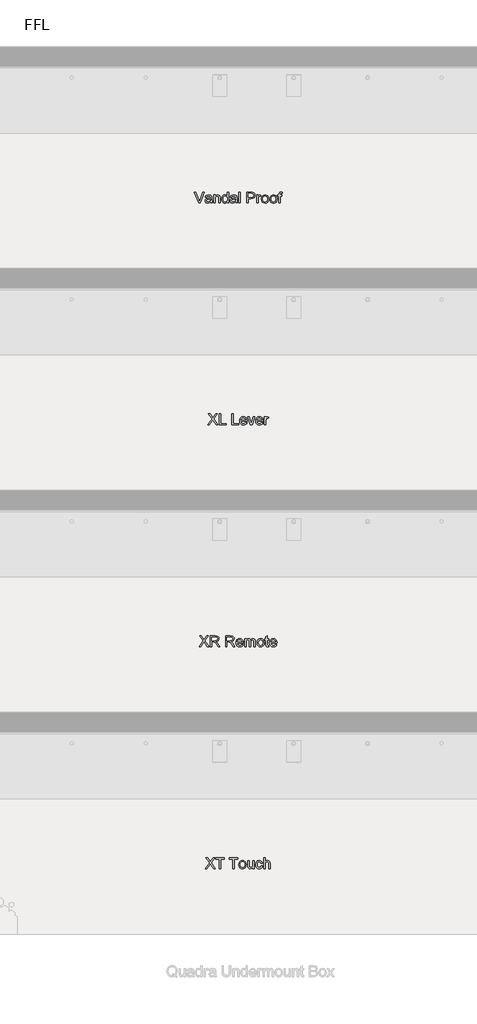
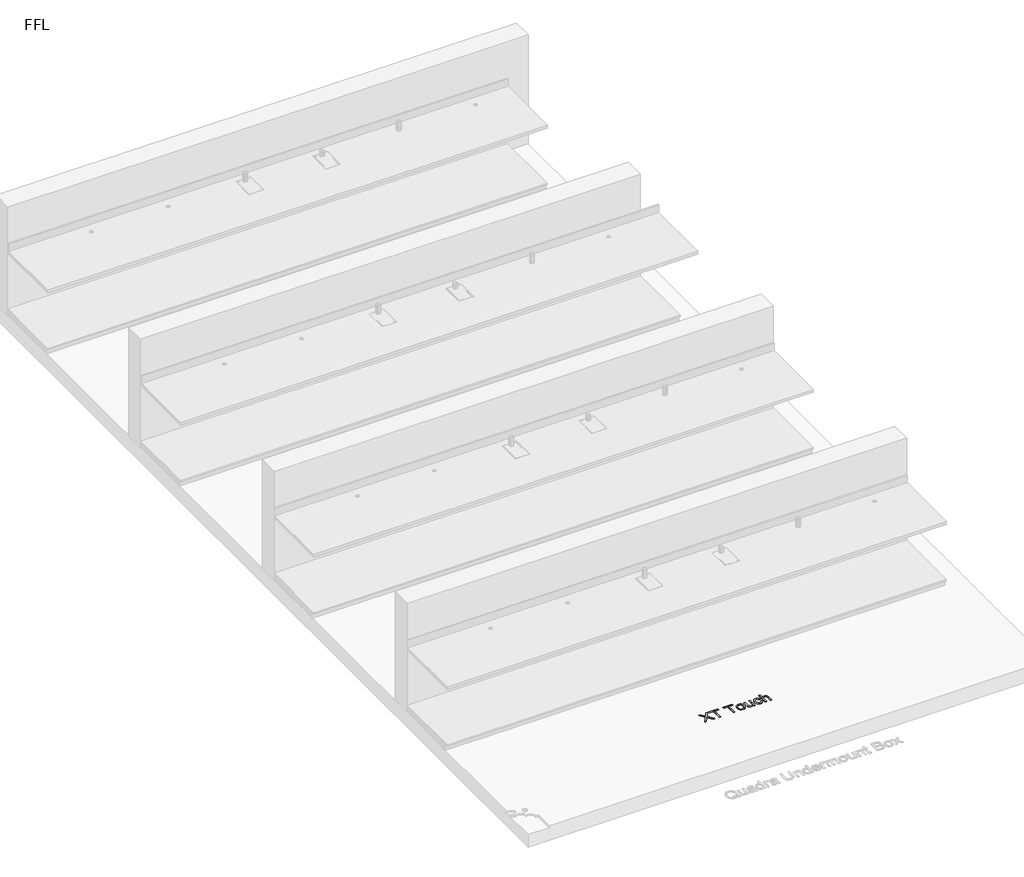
# One storey, part 5 of 5: 4 proxies.
"""IFC4 building model written with IfcOpenShell, lengths in millimetres."""

from ifc_helpers import new_model, si_unit, origin, origin_with_axes, place, context, project, spatial, polyline, outline, extrude, element, save

model = new_model("IFC4")

# Units and contexts
model_context = context("Model", 3, world=origin())
ifc_project = project(units=[si_unit("LENGTHUNIT", "METRE", prefix="MILLI")], contexts=[model_context])

# Site, building, storey
site = spatial("IfcSite", under=ifc_project)
building = spatial("IfcBuilding", under=site)
storey = spatial("IfcBuildingStorey", under=building, Name="FFL", Elevation=0.0)

# Proxies
placement = place(None, origin())
element("IfcBuildingElementProxy", 1, Name="150mm Arial", ObjectType="150mm Arial", at=placement, inside=storey, context=model_context, shape_type="SweptSolid", body=[
    extrude(outline(polyline([(17106.0339379, 3003.2393304), (17162.9690341, 3083.7200996), (17115.2647071, 3150.9316381), (17137.4041302, 3150.9316381), (17164.267111, 3113.1071188), (17173.3175917, 3098.3595227), (17183.9185533, 3113.3595227), (17210.4930725, 3150.9316381), (17232.9570148, 3150.9316381), (17185.2526879, 3083.5037534), (17242.1877841, 3003.2393304), (17220.048361, 3003.2393304), (17182.1156687, 3056.7489458), (17174.2190341, 3067.854715), (17165.5291302, 3055.667215), (17128.4978802, 3003.2393304), (17106.0339379, 3003.2393304)])), origin_with_axes(), (0.0, 0.0, 1.0), 5.0),
    extrude(outline(polyline([(17297.5723994, 3003.2393304), (17297.5723994, 3132.4700996), (17249.110861, 3132.4700996), (17249.110861, 3150.9316381), (17364.4954764, 3150.9316381), (17364.4954764, 3132.4700996), (17316.0339379, 3132.4700996), (17316.0339379, 3003.2393304), (17297.5723994, 3003.2393304)])), origin_with_axes(), (0.0, 0.0, 1.0), 5.0),
    extrude(outline(polyline([(17479.8800917, 3003.2393304), (17479.8800917, 3132.4700996), (17431.4185533, 3132.4700996), (17431.4185533, 3150.9316381), (17546.8031687, 3150.9316381), (17546.8031687, 3132.4700996), (17498.3416302, 3132.4700996), (17498.3416302, 3003.2393304), (17479.8800917, 3003.2393304)])), origin_with_axes(), (0.0, 0.0, 1.0), 5.0),
    extrude(outline(polyline([(17560.6493225, 3057.4700996), (17564.6427119, 3083.6209409), (17576.6228802, 3102.0013496), (17591.4245629, 3111.0067583), (17609.1469187, 3114.0085611), (17628.5414499, 3110.3532126), (17644.032736, 3099.3871669), (17654.1874836, 3081.9758087), (17657.5723994, 3058.9845227), (17656.0760052, 3040.3336813), (17651.5868225, 3026.135965), (17644.2355605, 3015.503453), (17634.1529283, 3007.5482246), (17622.1772672, 3002.5857847), (17609.1469187, 3000.9316381), (17589.5180124, 3004.573465), (17574.0447552, 3015.4989458), (17563.9981807, 3033.2753881), (17560.6493225, 3057.4700996)]), holes=[polyline([(17579.110861, 3057.5061573), (17581.2472792, 3040.7979241), (17587.6565341, 3028.8943784), (17597.3019667, 3021.768477), (17609.1469187, 3019.3931765), (17620.9377841, 3021.7819986), (17630.5651879, 3028.948465), (17636.9744427, 3041.0097631), (17639.110861, 3058.0830804), (17636.9609211, 3074.3045347), (17630.5111014, 3086.0458208), (17620.8701759, 3093.1717222), (17609.1469187, 3095.5470227), (17597.3019667, 3093.1807366), (17587.6565341, 3086.0818784), (17581.2472792, 3074.205376), (17579.110861, 3057.5061573)])]), origin_with_axes(), (0.0, 0.0, 1.0), 5.0),
    extrude(outline(polyline([(17747.5723994, 3003.2393304), (17747.5723994, 3021.8811573), (17733.1132648, 3006.1690179), (17714.2550917, 3000.9316381), (17696.8933129, 3004.6095227), (17684.9221591, 3013.8402919), (17679.423361, 3027.4340419), (17678.3416302, 3044.5975034), (17678.3416302, 3111.7008688), (17696.8031687, 3111.7008688), (17696.8031687, 3053.2874073), (17697.9209571, 3034.4652919), (17705.2226398, 3023.4136092), (17718.9786494, 3019.3931765), (17734.3933129, 3023.5037534), (17744.579611, 3034.6996669), (17747.5723994, 3055.2705804), (17747.5723994, 3111.7008688), (17766.0339379, 3111.7008688), (17766.0339379, 3003.2393304), (17747.5723994, 3003.2393304)])), origin_with_axes(), (0.0, 0.0, 1.0), 5.0),
    extrude(outline(polyline([(17860.6493225, 3042.4700996), (17879.110861, 3040.1624073), (17873.9636254, 3023.7426357), (17864.2911494, 3011.3342823), (17851.0038898, 3003.5322991), (17835.0123033, 3000.9316381), (17815.3743826, 3004.5599433), (17800.0183129, 3015.4448592), (17790.1069547, 3033.1086212), (17786.8031687, 3057.073465), (17792.4461975, 3087.7405323), (17799.5675917, 3099.2384289), (17809.6457167, 3107.4460611), (17821.7025076, 3112.3679361), (17834.7598994, 3114.0085611), (17850.3593586, 3111.7549554), (17862.8308129, 3104.9941381), (17871.7776278, 3094.0866861), (17876.8031687, 3079.3931765), (17858.3416302, 3077.0854842), (17849.7779283, 3090.9136092), (17834.9041302, 3095.5470227), (17822.9735413, 3093.2663736), (17813.5038898, 3086.4244265), (17807.3245028, 3074.65159), (17805.2647071, 3057.5782727), (17807.2794307, 3040.2750876), (17813.3236014, 3028.4616861), (17822.6219788, 3021.6603039), (17834.3993225, 3019.3931765), (17843.9591182, 3020.8084409), (17851.7971591, 3025.0542342), (17857.4987816, 3032.2387294), (17860.6493225, 3042.4700996)])), origin_with_axes(), (0.0, 0.0, 1.0), 5.0),
    extrude(outline(polyline([(17895.2647071, 3003.2393304), (17895.2647071, 3150.9316381), (17913.7262456, 3150.9316381), (17913.7262456, 3096.6287534), (17928.1222792, 3109.6636092), (17945.8536494, 3114.0085611), (17966.5868225, 3109.2669746), (17979.1709571, 3096.1600034), (17982.9570148, 3071.8931765), (17982.9570148, 3003.2393304), (17964.4954764, 3003.2393304), (17964.4954764, 3069.9821188), (17963.0261254, 3081.5386092), (17958.6180725, 3089.4532727), (17951.5147071, 3094.0235852), (17941.9594187, 3095.5470227), (17926.8332167, 3091.4364458), (17916.7370629, 3080.2946188), (17913.7262456, 3060.8595227), (17913.7262456, 3003.2393304), (17895.2647071, 3003.2393304)])), origin_with_axes(), (0.0, 0.0, 1.0), 5.0),
])
element("IfcBuildingElementProxy", 2, Name="150mm Arial", ObjectType="150mm Arial", at=placement, inside=storey, context=model_context, shape_type="SweptSolid", body=[
    extrude(outline(polyline([(17020.6493225, 6003.2393304), (17077.5844187, 6083.7200996), (17029.8800917, 6150.9316381), (17052.0195148, 6150.9316381), (17078.8824956, 6113.1071188), (17087.9329764, 6098.3595227), (17098.5339379, 6113.3595227), (17125.1084571, 6150.9316381), (17147.5723994, 6150.9316381), (17099.8680725, 6083.5037534), (17156.8031687, 6003.2393304), (17134.6637456, 6003.2393304), (17096.7310533, 6056.7489458), (17088.8344187, 6067.854715), (17080.1445148, 6055.667215), (17043.1132648, 6003.2393304), (17020.6493225, 6003.2393304)])), origin_with_axes(), (0.0, 0.0, 1.0), 5.0),
    extrude(outline(polyline([(17175.2647071, 6003.2393304), (17175.2647071, 6150.9316381), (17238.9065341, 6150.9316381), (17268.4558129, 6146.9472631), (17277.5513658, 6141.4304361), (17284.6096591, 6132.8487054), (17289.1394066, 6122.2071789), (17290.6493225, 6110.510965), (17288.1478201, 6095.9616861), (17280.6433129, 6083.9003881), (17267.9104403, 6075.057239), (17249.7238417, 6070.1624073), (17260.2166302, 6062.2657727), (17275.1805725, 6043.2633688), (17299.8079764, 6003.2393304), (17278.3536494, 6003.2393304), (17259.1348994, 6033.8523111), (17245.2526879, 6054.1167342), (17235.4990821, 6063.6900515), (17226.7190341, 6067.2056765), (17216.0098994, 6067.854715), (17193.7262456, 6067.854715), (17193.7262456, 6003.2393304), (17175.2647071, 6003.2393304)]), holes=[polyline([(17193.7262456, 6086.3162534), (17235.048361, 6086.3162534), (17256.1240821, 6088.9304361), (17268.095236, 6097.2958208), (17272.1877841, 6109.8258688), (17270.2361615, 6118.8312775), (17264.3812937, 6126.0878881), (17254.3076759, 6130.8745467), (17239.6998033, 6132.4700996), (17193.7262456, 6132.4700996), (17193.7262456, 6086.3162534)])]), origin_with_axes(), (0.0, 0.0, 1.0), 5.0),
    extrude(outline(polyline([(17380.6493225, 6003.2393304), (17380.6493225, 6150.9316381), (17444.2911494, 6150.9316381), (17473.8404283, 6146.9472631), (17482.9359812, 6141.4304361), (17489.9942744, 6132.8487054), (17494.524022, 6122.2071789), (17496.0339379, 6110.510965), (17493.5324355, 6095.9616861), (17486.0279283, 6083.9003881), (17473.2950557, 6075.057239), (17455.1084571, 6070.1624073), (17465.6012456, 6062.2657727), (17480.5651879, 6043.2633688), (17505.1925917, 6003.2393304), (17483.7382648, 6003.2393304), (17464.5195148, 6033.8523111), (17450.6373033, 6054.1167342), (17440.8836975, 6063.6900515), (17432.1036494, 6067.2056765), (17421.3945148, 6067.854715), (17399.110861, 6067.854715), (17399.110861, 6003.2393304), (17380.6493225, 6003.2393304)]), holes=[polyline([(17399.110861, 6086.3162534), (17440.4329764, 6086.3162534), (17461.5086975, 6088.9304361), (17473.4798514, 6097.2958208), (17477.5723994, 6109.8258688), (17475.6207768, 6118.8312775), (17469.7659091, 6126.0878881), (17459.6922913, 6130.8745467), (17445.0844187, 6132.4700996), (17399.110861, 6132.4700996), (17399.110861, 6086.3162534)])]), origin_with_axes(), (0.0, 0.0, 1.0), 5.0),
    extrude(outline(polyline([(17601.9714379, 6035.5470227), (17620.0723994, 6033.2393304), (17613.5504643, 6019.6005083), (17603.1433129, 6009.4051958), (17589.0853201, 6003.0500275), (17571.610861, 6000.9316381), (17549.9492023, 6004.5869866), (17533.2815341, 6015.5530323), (17522.6535292, 6033.1176357), (17519.110861, 6056.5686573), (17522.6895869, 6080.8084409), (17533.4257648, 6098.9364458), (17549.8680725, 6110.2405323), (17570.5651879, 6114.0085611), (17590.617772, 6110.2495467), (17606.6409091, 6098.9725034), (17617.1472191, 6080.8805563), (17620.6493225, 6056.6768304), (17620.5411494, 6051.7008688), (17537.5723994, 6051.7008688), (17540.7680124, 6037.8817583), (17548.1913898, 6027.7225034), (17558.9050316, 6021.4755083), (17571.9714379, 6019.3931765), (17590.0723994, 6023.2513496), (17601.9714379, 6035.5470227)]), holes=[polyline([(17537.5723994, 6070.1624073), (17602.1877841, 6070.1624073), (17599.6907889, 6079.9160131), (17594.7959571, 6086.8931765), (17584.032736, 6093.3835611), (17570.4930725, 6095.5470227), (17558.0486615, 6093.8207607), (17547.7586975, 6088.6419746), (17540.6057528, 6080.5695587), (17537.5723994, 6070.1624073)])]), origin_with_axes(), (0.0, 0.0, 1.0), 5.0),
    extrude(outline(polyline([(17639.110861, 6003.2393304), (17639.110861, 6111.7008688), (17657.5723994, 6111.7008688), (17657.5723994, 6093.8523111), (17670.2647071, 6108.4737054), (17688.329611, 6114.0085611), (17698.5970389, 6112.5978039), (17706.8272071, 6108.3655323), (17716.9954764, 6092.5542342), (17731.4005244, 6108.6449794), (17749.5916302, 6114.0085611), (17763.4693345, 6111.7774914), (17773.7322552, 6105.0842823), (17780.0739018, 6093.7486453), (17782.1877841, 6077.5902919), (17782.1877841, 6003.2393304), (17763.7262456, 6003.2393304), (17763.7262456, 6069.6575996), (17762.0135052, 6085.0722631), (17755.8115821, 6092.6624073), (17745.2647071, 6095.5470227), (17735.2632047, 6093.6990659), (17727.1096591, 6088.1551958), (17721.6874836, 6078.5368063), (17719.8800917, 6064.4652919), (17719.8800917, 6003.2393304), (17701.4185533, 6003.2393304), (17701.4185533, 6071.7128881), (17697.1457167, 6089.5975034), (17691.5071951, 6094.0596429), (17683.1373033, 6095.5470227), (17669.4714379, 6091.5806765), (17660.3848994, 6079.9700996), (17657.5723994, 6057.9388496), (17657.5723994, 6003.2393304), (17639.110861, 6003.2393304)])), origin_with_axes(), (0.0, 0.0, 1.0), 5.0),
    extrude(outline(polyline([(17805.2647071, 6057.4700996), (17809.2580966, 6083.6209409), (17821.2382648, 6102.0013496), (17836.0399475, 6111.0067583), (17853.7623033, 6114.0085611), (17873.1568345, 6110.3532126), (17888.6481206, 6099.3871669), (17898.8028682, 6081.9758087), (17902.1877841, 6058.9845227), (17900.6913898, 6040.3336813), (17896.2022071, 6026.135965), (17888.8509451, 6015.503453), (17878.7683129, 6007.5482246), (17866.7926518, 6002.5857847), (17853.7623033, 6000.9316381), (17834.133397, 6004.573465), (17818.6601398, 6015.4989458), (17808.6135653, 6033.2753881), (17805.2647071, 6057.4700996)]), holes=[polyline([(17823.7262456, 6057.5061573), (17825.8626639, 6040.7979241), (17832.2719187, 6028.8943784), (17841.9173514, 6021.768477), (17853.7623033, 6019.3931765), (17865.5531687, 6021.7819986), (17875.1805725, 6028.948465), (17881.5898273, 6041.0097631), (17883.7262456, 6058.0830804), (17881.5763057, 6074.3045347), (17875.126486, 6086.0458208), (17865.4855605, 6093.1717222), (17853.7623033, 6095.5470227), (17841.9173514, 6093.1807366), (17832.2719187, 6086.0818784), (17825.8626639, 6074.205376), (17823.7262456, 6057.5061573)])]), origin_with_axes(), (0.0, 0.0, 1.0), 5.0),
    extrude(outline(polyline([(17962.1877841, 6018.635965), (17964.4954764, 6002.698465), (17950.6853802, 6000.9316381), (17935.2166302, 6003.9965419), (17927.5002841, 6012.0374073), (17925.2647071, 6032.9869265), (17925.2647071, 6093.2393304), (17911.4185533, 6093.2393304), (17911.4185533, 6111.7008688), (17925.2647071, 6111.7008688), (17925.2647071, 6138.0590419), (17943.7262456, 6148.9124073), (17943.7262456, 6111.7008688), (17962.1877841, 6111.7008688), (17962.1877841, 6093.2393304), (17943.7262456, 6093.2393304), (17943.7262456, 6033.5277919), (17944.6998033, 6024.0085611), (17947.8548514, 6020.6371669), (17954.1469187, 6019.3931765), (17962.1877841, 6018.635965)])), origin_with_axes(), (0.0, 0.0, 1.0), 5.0),
    extrude(outline(polyline([(18056.5868225, 6035.5470227), (18074.6877841, 6033.2393304), (18068.165849, 6019.6005083), (18057.7586975, 6009.4051958), (18043.7007047, 6003.0500275), (18026.2262456, 6000.9316381), (18004.5645869, 6004.5869866), (17987.8969187, 6015.5530323), (17977.2689139, 6033.1176357), (17973.7262456, 6056.5686573), (17977.3049716, 6080.8084409), (17988.0411494, 6098.9364458), (18004.4834571, 6110.2405323), (18025.1805725, 6114.0085611), (18045.2331566, 6110.2495467), (18061.2562937, 6098.9725034), (18071.7626038, 6080.8805563), (18075.2647071, 6056.6768304), (18075.1565341, 6051.7008688), (17992.1877841, 6051.7008688), (17995.383397, 6037.8817583), (18002.8067744, 6027.7225034), (18013.5204163, 6021.4755083), (18026.5868225, 6019.3931765), (18044.6877841, 6023.2513496), (18056.5868225, 6035.5470227)]), holes=[polyline([(17992.1877841, 6070.1624073), (18056.8031687, 6070.1624073), (18054.3061735, 6079.9160131), (18049.4113417, 6086.8931765), (18038.6481206, 6093.3835611), (18025.1084571, 6095.5470227), (18012.6640461, 6093.8207607), (18002.3740821, 6088.6419746), (17995.2211374, 6080.5695587), (17992.1877841, 6070.1624073)])]), origin_with_axes(), (0.0, 0.0, 1.0), 5.0),
])
element("IfcBuildingElementProxy", 3, Name="150mm Arial", ObjectType="150mm Arial", at=placement, inside=storey, context=model_context, shape_type="SweptSolid", body=[
    extrude(outline(polyline([(17139.4954764, 9003.2393304), (17196.4305725, 9083.7200996), (17148.7262456, 9150.9316381), (17170.8656687, 9150.9316381), (17197.7286494, 9113.1071188), (17206.7791302, 9098.3595227), (17217.3800917, 9113.3595227), (17243.954611, 9150.9316381), (17266.4185533, 9150.9316381), (17218.7142264, 9083.5037534), (17275.6493225, 9003.2393304), (17253.5098994, 9003.2393304), (17215.5772071, 9056.7489458), (17207.6805725, 9067.854715), (17198.9906687, 9055.667215), (17161.9594187, 9003.2393304), (17139.4954764, 9003.2393304)])), origin_with_axes(), (0.0, 0.0, 1.0), 5.0),
    extrude(outline(polyline([(17294.110861, 9003.2393304), (17294.110861, 9150.9316381), (17312.5723994, 9150.9316381), (17312.5723994, 9021.7008688), (17386.4185533, 9021.7008688), (17386.4185533, 9003.2393304), (17294.110861, 9003.2393304)])), origin_with_axes(), (0.0, 0.0, 1.0), 5.0),
    extrude(outline(polyline([(17464.8800917, 9003.2393304), (17464.8800917, 9150.9316381), (17483.3416302, 9150.9316381), (17483.3416302, 9021.7008688), (17557.1877841, 9021.7008688), (17557.1877841, 9003.2393304), (17464.8800917, 9003.2393304)])), origin_with_axes(), (0.0, 0.0, 1.0), 5.0),
    extrude(outline(polyline([(17651.5868225, 9035.5470227), (17669.6877841, 9033.2393304), (17663.165849, 9019.6005083), (17652.7586975, 9009.4051958), (17638.7007047, 9003.0500275), (17621.2262456, 9000.9316381), (17599.5645869, 9004.5869866), (17582.8969187, 9015.5530323), (17572.2689139, 9033.1176357), (17568.7262456, 9056.5686573), (17572.3049716, 9080.8084409), (17583.0411494, 9098.9364458), (17599.4834571, 9110.2405323), (17620.1805725, 9114.0085611), (17640.2331566, 9110.2495467), (17656.2562937, 9098.9725034), (17666.7626038, 9080.8805563), (17670.2647071, 9056.6768304), (17670.1565341, 9051.7008688), (17587.1877841, 9051.7008688), (17590.383397, 9037.8817583), (17597.8067744, 9027.7225034), (17608.5204163, 9021.4755083), (17621.5868225, 9019.3931765), (17639.6877841, 9023.2513496), (17651.5868225, 9035.5470227)]), holes=[polyline([(17587.1877841, 9070.1624073), (17651.8031687, 9070.1624073), (17649.3061735, 9079.9160131), (17644.4113417, 9086.8931765), (17633.6481206, 9093.3835611), (17620.1084571, 9095.5470227), (17607.6640461, 9093.8207607), (17597.3740821, 9088.6419746), (17590.2211374, 9080.5695587), (17587.1877841, 9070.1624073)])]), origin_with_axes(), (0.0, 0.0, 1.0), 5.0),
    extrude(outline(polyline([(17715.3368225, 9003.2393304), (17677.1877841, 9111.7008688), (17696.7310533, 9111.7008688), (17719.8440341, 9046.7249073), (17726.8031687, 9024.8739458), (17733.6180725, 9045.4989458), (17756.8752841, 9111.7008688), (17776.4185533, 9111.7008688), (17738.7382648, 9003.2393304), (17715.3368225, 9003.2393304)])), origin_with_axes(), (0.0, 0.0, 1.0), 5.0),
    extrude(outline(polyline([(17868.5098994, 9035.5470227), (17886.610861, 9033.2393304), (17880.0889259, 9019.6005083), (17869.6817744, 9009.4051958), (17855.6237816, 9003.0500275), (17838.1493225, 9000.9316381), (17816.4876639, 9004.5869866), (17799.8199956, 9015.5530323), (17789.1919908, 9033.1176357), (17785.6493225, 9056.5686573), (17789.2280485, 9080.8084409), (17799.9642264, 9098.9364458), (17816.4065341, 9110.2405323), (17837.1036494, 9114.0085611), (17857.1562336, 9110.2495467), (17873.1793706, 9098.9725034), (17883.6856807, 9080.8805563), (17887.1877841, 9056.6768304), (17887.079611, 9051.7008688), (17804.110861, 9051.7008688), (17807.306474, 9037.8817583), (17814.7298514, 9027.7225034), (17825.4434932, 9021.4755083), (17838.5098994, 9019.3931765), (17856.610861, 9023.2513496), (17868.5098994, 9035.5470227)]), holes=[polyline([(17804.110861, 9070.1624073), (17868.7262456, 9070.1624073), (17866.2292504, 9079.9160131), (17861.3344187, 9086.8931765), (17850.5711975, 9093.3835611), (17837.0315341, 9095.5470227), (17824.587123, 9093.8207607), (17814.2971591, 9088.6419746), (17807.1442143, 9080.5695587), (17804.110861, 9070.1624073)])]), origin_with_axes(), (0.0, 0.0, 1.0), 5.0),
    extrude(outline(polyline([(17905.6493225, 9003.2393304), (17905.6493225, 9111.7008688), (17921.8031687, 9111.7008688), (17921.8031687, 9095.6551958), (17933.2695148, 9110.4388496), (17944.8079764, 9114.0085611), (17963.3416302, 9108.3114458), (17957.1757648, 9091.760965), (17944.1949956, 9095.5470227), (17933.7562937, 9091.9051958), (17927.1036494, 9081.8090419), (17924.110861, 9060.2465419), (17924.110861, 9003.2393304), (17905.6493225, 9003.2393304)])), origin_with_axes(), (0.0, 0.0, 1.0), 5.0),
])
element("IfcBuildingElementProxy", 4, Name="150mm Arial", ObjectType="150mm Arial", at=placement, inside=storey, context=model_context, shape_type="SweptSolid", body=[
    extrude(outline(polyline([(17018.1252841, 12003.2393304), (16959.3512456, 12150.9316381), (16979.110861, 12150.9316381), (17018.4498033, 12044.5253881), (17026.4185533, 12020.5470227), (17034.2791302, 12044.5253881), (17073.7262456, 12150.9316381), (17093.485861, 12150.9316381), (17037.1998033, 12003.2393304), (17018.1252841, 12003.2393304)])), origin_with_axes(), (0.0, 0.0, 1.0), 5.0),
    extrude(outline(polyline([(17177.5723994, 12017.0854842), (17159.6697552, 12004.573465), (17139.892111, 12000.9316381), (17124.4639259, 12003.1221429), (17113.0832167, 12009.6936573), (17106.0654884, 12019.6726236), (17103.7262456, 12032.0854842), (17107.2598994, 12046.6888496), (17116.5447552, 12057.2898111), (17129.4714379, 12063.3475034), (17145.4449956, 12066.1239458), (17177.4642264, 12072.4700996), (17177.5723994, 12076.5806765), (17176.3013658, 12084.8198592), (17172.4882648, 12090.2104842), (17163.9606206, 12094.2128881), (17152.079611, 12095.5470227), (17133.4017264, 12091.99534), (17124.4954764, 12079.3931765), (17106.0339379, 12081.7008688), (17114.0207167, 12099.729715), (17130.1024475, 12110.2946188), (17154.4594187, 12114.0085611), (17176.8332167, 12110.7273111), (17189.4714379, 12102.4881284), (17195.1324956, 12089.9580804), (17196.0339379, 12073.8042342), (17196.0339379, 12050.8354842), (17196.9714379, 12018.7621669), (17200.6493225, 12003.2393304), (17182.1877841, 12003.2393304), (17177.5723994, 12017.0854842)]), holes=[polyline([(17177.5723994, 12054.0085611), (17147.7887456, 12048.3475034), (17131.9053321, 12045.354715), (17124.7118225, 12040.4869265), (17122.1877841, 12033.3835611), (17127.6865821, 12023.3955804), (17143.8223994, 12019.3931765), (17162.5002841, 12023.8102438), (17174.5435533, 12034.5013496), (17177.4642264, 12048.7801958), (17177.5723994, 12054.0085611)])]), origin_with_axes(), (0.0, 0.0, 1.0), 5.0),
    extrude(outline(polyline([(17221.4185533, 12003.2393304), (17221.4185533, 12111.7008688), (17239.8800917, 12111.7008688), (17239.8800917, 12096.5566381), (17253.9966783, 12109.6455804), (17273.2695148, 12114.0085611), (17290.7034091, 12110.4929361), (17302.6024475, 12101.2621669), (17308.1373033, 12087.6864458), (17309.110861, 12069.8378881), (17309.110861, 12003.2393304), (17290.6493225, 12003.2393304), (17290.6493225, 12067.3499073), (17288.5219187, 12083.6840419), (17281.0038898, 12092.3198592), (17268.329611, 12095.5470227), (17257.5168105, 12093.7351236), (17248.2995629, 12088.2994265), (17241.9849595, 12077.7976236), (17239.8800917, 12060.7874073), (17239.8800917, 12003.2393304), (17221.4185533, 12003.2393304)])), origin_with_axes(), (0.0, 0.0, 1.0), 5.0),
    extrude(outline(polyline([(17401.4185533, 12003.2393304), (17401.4185533, 12020.6551958), (17389.20401, 12005.8625275), (17372.3199956, 12000.9316381), (17360.3848994, 12002.7164938), (17349.4594187, 12008.0710611), (17340.2106206, 12016.6212414), (17333.3055725, 12027.9929361), (17329.0056927, 12041.7264097), (17327.5723994, 12057.3619265), (17332.8548514, 12086.7489458), (17339.4534091, 12098.4045948), (17348.6841783, 12106.9773111), (17359.8485413, 12112.2507486), (17372.2478802, 12114.0085611), (17389.267111, 12108.9785131), (17401.4185533, 12095.9075996), (17401.4185533, 12150.9316381), (17419.8800917, 12150.9316381), (17419.8800917, 12003.2393304), (17401.4185533, 12003.2393304)]), holes=[polyline([(17346.0339379, 12057.4340419), (17348.1162696, 12040.7348232), (17354.3632648, 12028.8583208), (17363.4407889, 12021.7594626), (17374.0147071, 12019.3931765), (17384.5841182, 12021.6512895), (17393.4317744, 12028.4256284), (17399.4218586, 12039.8423953), (17401.4185533, 12056.0277919), (17399.3858009, 12073.7231044), (17393.2875437, 12085.9917342), (17384.2145268, 12093.1582006), (17373.2574956, 12095.5470227), (17362.5754042, 12093.252852), (17353.8223994, 12086.37034), (17347.9810533, 12074.5479241), (17346.0339379, 12057.4340419)])]), origin_with_axes(), (0.0, 0.0, 1.0), 5.0),
    extrude(outline(polyline([(17516.8031687, 12017.0854842), (17498.9005244, 12004.573465), (17479.1228802, 12000.9316381), (17463.6946951, 12003.1221429), (17452.313986, 12009.6936573), (17445.2962576, 12019.6726236), (17442.9570148, 12032.0854842), (17446.4906687, 12046.6888496), (17455.7755244, 12057.2898111), (17468.7022071, 12063.3475034), (17484.6757648, 12066.1239458), (17516.6949956, 12072.4700996), (17516.8031687, 12076.5806765), (17515.532135, 12084.8198592), (17511.7190341, 12090.2104842), (17503.1913898, 12094.2128881), (17491.3103802, 12095.5470227), (17472.6324956, 12091.99534), (17463.7262456, 12079.3931765), (17445.2647071, 12081.7008688), (17453.251486, 12099.729715), (17469.3332167, 12110.2946188), (17493.6901879, 12114.0085611), (17516.063986, 12110.7273111), (17528.7022071, 12102.4881284), (17534.3632648, 12089.9580804), (17535.2647071, 12073.8042342), (17535.2647071, 12050.8354842), (17536.2022071, 12018.7621669), (17539.8800917, 12003.2393304), (17521.4185533, 12003.2393304), (17516.8031687, 12017.0854842)]), holes=[polyline([(17516.8031687, 12054.0085611), (17487.0195148, 12048.3475034), (17471.1361014, 12045.354715), (17463.9425917, 12040.4869265), (17461.4185533, 12033.3835611), (17466.9173514, 12023.3955804), (17483.0531687, 12019.3931765), (17501.7310533, 12023.8102438), (17513.7743225, 12034.5013496), (17516.6949956, 12048.7801958), (17516.8031687, 12054.0085611)])]), origin_with_axes(), (0.0, 0.0, 1.0), 5.0),
    extrude(outline(polyline([(17560.6493225, 12003.2393304), (17560.6493225, 12150.9316381), (17579.110861, 12150.9316381), (17579.110861, 12003.2393304), (17560.6493225, 12003.2393304)])), origin_with_axes(), (0.0, 0.0, 1.0), 5.0),
    extrude(outline(polyline([(17666.8031687, 12003.2393304), (17666.8031687, 12150.9316381), (17721.5387456, 12150.9316381), (17743.6060533, 12149.5253881), (17761.5447552, 12142.62034), (17773.173361, 12128.3414938), (17777.5723994, 12108.2032727), (17774.602147, 12090.7964217), (17765.6913898, 12076.292215), (17749.0282288, 12066.5025515), (17722.8007648, 12063.2393304), (17685.2647071, 12063.2393304), (17685.2647071, 12003.2393304), (17666.8031687, 12003.2393304)]), holes=[polyline([(17685.2647071, 12081.7008688), (17723.8824956, 12081.7008688), (17740.2526879, 12083.3955804), (17751.0699956, 12088.479715), (17757.1006446, 12096.6377679), (17759.110861, 12107.5542342), (17754.3692744, 12122.8426958), (17741.9113417, 12131.2080804), (17723.4498033, 12132.4700996), (17685.2647071, 12132.4700996), (17685.2647071, 12081.7008688)])]), origin_with_axes(), (0.0, 0.0, 1.0), 5.0),
    extrude(outline(polyline([(17800.6493225, 12003.2393304), (17800.6493225, 12111.7008688), (17816.8031687, 12111.7008688), (17816.8031687, 12095.6551958), (17828.2695148, 12110.4388496), (17839.8079764, 12114.0085611), (17858.3416302, 12108.3114458), (17852.1757648, 12091.760965), (17839.1949956, 12095.5470227), (17828.7562937, 12091.9051958), (17822.1036494, 12081.8090419), (17819.110861, 12060.2465419), (17819.110861, 12003.2393304), (17800.6493225, 12003.2393304)])), origin_with_axes(), (0.0, 0.0, 1.0), 5.0),
    extrude(outline(polyline([(17865.2647071, 12057.4700996), (17869.2580966, 12083.6209409), (17881.2382648, 12102.0013496), (17896.0399475, 12111.0067583), (17913.7623033, 12114.0085611), (17933.1568345, 12110.3532126), (17948.6481206, 12099.3871669), (17958.8028682, 12081.9758087), (17962.1877841, 12058.9845227), (17960.6913898, 12040.3336813), (17956.2022071, 12026.135965), (17948.8509451, 12015.503453), (17938.7683129, 12007.5482246), (17926.7926518, 12002.5857847), (17913.7623033, 12000.9316381), (17894.133397, 12004.573465), (17878.6601398, 12015.4989458), (17868.6135653, 12033.2753881), (17865.2647071, 12057.4700996)]), holes=[polyline([(17883.7262456, 12057.5061573), (17885.8626639, 12040.7979241), (17892.2719187, 12028.8943784), (17901.9173514, 12021.768477), (17913.7623033, 12019.3931765), (17925.5531687, 12021.7819986), (17935.1805725, 12028.948465), (17941.5898273, 12041.0097631), (17943.7262456, 12058.0830804), (17941.5763057, 12074.3045347), (17935.126486, 12086.0458208), (17925.4855605, 12093.1717222), (17913.7623033, 12095.5470227), (17901.9173514, 12093.1807366), (17892.2719187, 12086.0818784), (17885.8626639, 12074.205376), (17883.7262456, 12057.5061573)])]), origin_with_axes(), (0.0, 0.0, 1.0), 5.0),
    extrude(outline(polyline([(17978.3416302, 12057.4700996), (17982.3350196, 12083.6209409), (17994.3151879, 12102.0013496), (18009.1168706, 12111.0067583), (18026.8392264, 12114.0085611), (18046.2337576, 12110.3532126), (18061.7250437, 12099.3871669), (18071.8797913, 12081.9758087), (18075.2647071, 12058.9845227), (18073.7683129, 12040.3336813), (18069.2791302, 12026.135965), (18061.9278682, 12015.503453), (18051.845236, 12007.5482246), (18039.8695749, 12002.5857847), (18026.8392264, 12000.9316381), (18007.2103201, 12004.573465), (17991.7370629, 12015.4989458), (17981.6904884, 12033.2753881), (17978.3416302, 12057.4700996)]), holes=[polyline([(17996.8031687, 12057.5061573), (17998.9395869, 12040.7979241), (18005.3488417, 12028.8943784), (18014.9942744, 12021.768477), (18026.8392264, 12019.3931765), (18038.6300917, 12021.7819986), (18048.2574956, 12028.948465), (18054.6667504, 12041.0097631), (18056.8031687, 12058.0830804), (18054.6532288, 12074.3045347), (18048.2034091, 12086.0458208), (18038.5624836, 12093.1717222), (18026.8392264, 12095.5470227), (18014.9942744, 12093.1807366), (18005.3488417, 12086.0818784), (17998.9395869, 12074.205376), (17996.8031687, 12057.5061573)])]), origin_with_axes(), (0.0, 0.0, 1.0), 5.0),
    extrude(outline(polyline([(18100.6493225, 12003.2393304), (18100.6493225, 12093.2393304), (18084.4954764, 12093.2393304), (18084.4954764, 12111.7008688), (18100.6493225, 12111.7008688), (18100.6493225, 12122.6263496), (18102.5964379, 12138.0229842), (18112.0435533, 12149.0205804), (18130.6493225, 12153.2393304), (18147.4882648, 12151.2200996), (18144.7839379, 12133.9124073), (18134.1469187, 12134.7777919), (18122.5183129, 12131.7128881), (18119.110861, 12120.2825996), (18119.110861, 12111.7008688), (18139.8800917, 12111.7008688), (18139.8800917, 12093.2393304), (18119.110861, 12093.2393304), (18119.110861, 12003.2393304), (18100.6493225, 12003.2393304)])), origin_with_axes(), (0.0, 0.0, 1.0), 5.0),
])

save(model, "model.ifc")
